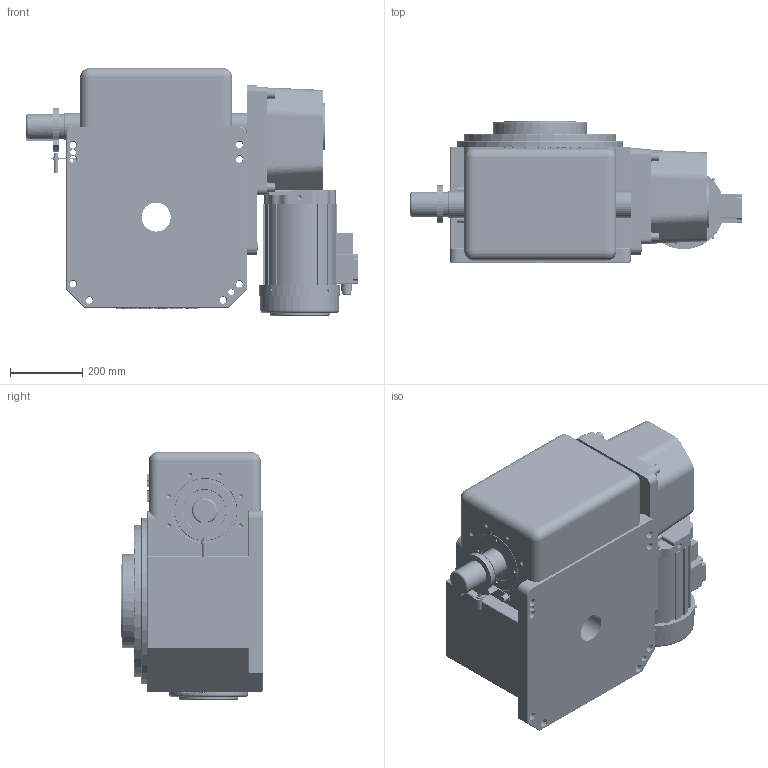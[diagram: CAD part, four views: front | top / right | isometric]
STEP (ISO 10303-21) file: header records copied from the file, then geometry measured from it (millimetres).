
FILE_DESCRIPTION (( 'STEP AP214' ), '1' );
FILE_NAME ('ER-RU250DT英锐凸轮分割器固定盘壳体法兰面销孔3D水平直联式右侧ST(电话15062628977)AA.STEP', '2022-09-24T09:39:59', ( '微软用户' ), ( '微软中国' ), 'SwSTEP 2.0', 'SolidWorks 2017', '' );
FILE_SCHEMA (( 'AUTOMOTIVE_DESIGN' ));
Length unit declared in the file: millimetre
Products named in the file (1): ER-RU250DT英锐凸轮分割器固定盘壳体法兰面销孔3D水平直联式右侧ST(电话15062628977)AA
Bounding box: 918 x 390 x 685 mm (x, y, z)
Volume: 112078585.9 mm3; surface area: 3184475 mm2
Topology: 5 solids, 14 shells, 3347 faces, 8808 edges, 5611 vertices
Faces by surface type: cylinder 1619, plane 847, bspline 505, cone 344, torus 28, sphere 4
Entity records: 286687 total; most frequent: CARTESIAN_POINT 186322, ORIENTED_EDGE 17332, DIRECTION 12373, EDGE_CURVE 8666, VERTEX_POINT 5611, AXIS2_PLACEMENT_3D 4281, LINE 3811, VECTOR 3811
